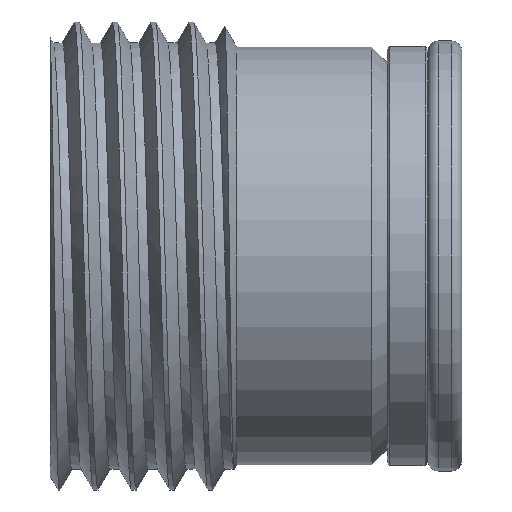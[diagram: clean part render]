
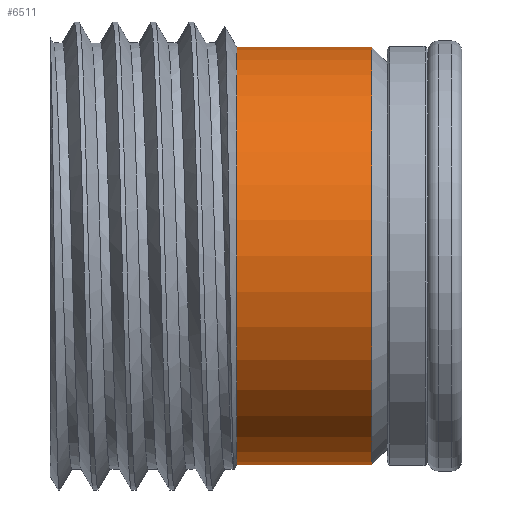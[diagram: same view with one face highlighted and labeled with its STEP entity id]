
A CAD part, front view. The second image highlights one B-rep face of the part: STEP entity #6511.
In plain terms, the highlighted cylindrical face has radius 9.919 mm (diameter 19.837 mm), a partial arc.
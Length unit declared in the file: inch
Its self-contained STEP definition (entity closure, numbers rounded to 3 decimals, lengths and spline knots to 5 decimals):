
#393 = ORIENTED_EDGE ( 'NONE', *, *, #5509, .F. ) ;
#465 = LINE ( 'NONE', #1719, #6199 ) ;
#851 = DIRECTION ( 'NONE',  ( -1., 0., 0. ) ) ;
#902 = ORIENTED_EDGE ( 'NONE', *, *, #4459, .T. ) ;
#956 = CARTESIAN_POINT ( 'NONE',  ( 26.34105, 34.37561, 50.59221 ) ) ;
#1239 = CIRCLE ( 'NONE', #5605, 0.3905 ) ;
#1358 = VERTEX_POINT ( 'NONE', #7085 ) ;
#1719 = CARTESIAN_POINT ( 'NONE',  ( 25.73933, 34.37561, 51.37321 ) ) ;
#1998 = ORIENTED_EDGE ( 'NONE', *, *, #7373, .T. ) ;
#2351 = DIRECTION ( 'NONE',  ( 0., 0., 1. ) ) ;
#2991 = VECTOR ( 'NONE', #4951, 39.37008 ) ;
#3151 = ORIENTED_EDGE ( 'NONE', *, *, #5517, .F. ) ;
#3166 = DIRECTION ( 'NONE',  ( 0., 0., 1. ) ) ;
#3197 = AXIS2_PLACEMENT_3D ( 'NONE', #5613, #4336, #2351 ) ;
#4262 = FACE_OUTER_BOUND ( 'NONE', #4548, .T. ) ;
#4336 = DIRECTION ( 'NONE',  ( -1., 0., 0. ) ) ;
#4459 = EDGE_CURVE ( 'NONE', #7255, #7230, #1239, .T. ) ;
#4548 = EDGE_LOOP ( 'NONE', ( #3151, #902, #1998, #393 ) ) ;
#4568 = CARTESIAN_POINT ( 'NONE',  ( 26.34105, 34.37561, 50.98271 ) ) ;
#4951 = DIRECTION ( 'NONE',  ( -1., 0., 0. ) ) ;
#5481 = CARTESIAN_POINT ( 'NONE',  ( 25.73933, 34.37561, 50.59221 ) ) ;
#5484 = AXIS2_PLACEMENT_3D ( 'NONE', #6520, #851, #5910 ) ;
#5509 = EDGE_CURVE ( 'NONE', #1358, #8190, #6677, .T. ) ;
#5517 = EDGE_CURVE ( 'NONE', #7255, #1358, #5527, .T. ) ;
#5527 = LINE ( 'NONE', #5481, #2991 ) ;
#5605 = AXIS2_PLACEMENT_3D ( 'NONE', #4568, #7628, #3166 ) ;
#5613 = CARTESIAN_POINT ( 'NONE',  ( 25.73933, 34.37561, 50.98271 ) ) ;
#5909 = CARTESIAN_POINT ( 'NONE',  ( 26.08833, 34.37561, 51.37321 ) ) ;
#5910 = DIRECTION ( 'NONE',  ( 0., 0., 1. ) ) ;
#6199 = VECTOR ( 'NONE', #7468, 39.37008 ) ;
#6511 = ADVANCED_FACE ( 'NONE', ( #4262 ), #8018, .T. ) ;
#6520 = CARTESIAN_POINT ( 'NONE',  ( 26.08833, 34.37561, 50.98271 ) ) ;
#6677 = CIRCLE ( 'NONE', #5484, 0.3905 ) ;
#7085 = CARTESIAN_POINT ( 'NONE',  ( 26.08833, 34.37561, 50.59221 ) ) ;
#7230 = VERTEX_POINT ( 'NONE', #7850 ) ;
#7255 = VERTEX_POINT ( 'NONE', #956 ) ;
#7373 = EDGE_CURVE ( 'NONE', #7230, #8190, #465, .T. ) ;
#7468 = DIRECTION ( 'NONE',  ( -1., 0., 0. ) ) ;
#7628 = DIRECTION ( 'NONE',  ( -1., 0., 0. ) ) ;
#7850 = CARTESIAN_POINT ( 'NONE',  ( 26.34105, 34.37561, 51.37321 ) ) ;
#8018 = CYLINDRICAL_SURFACE ( 'NONE', #3197, 0.3905 ) ;
#8190 = VERTEX_POINT ( 'NONE', #5909 ) ;
